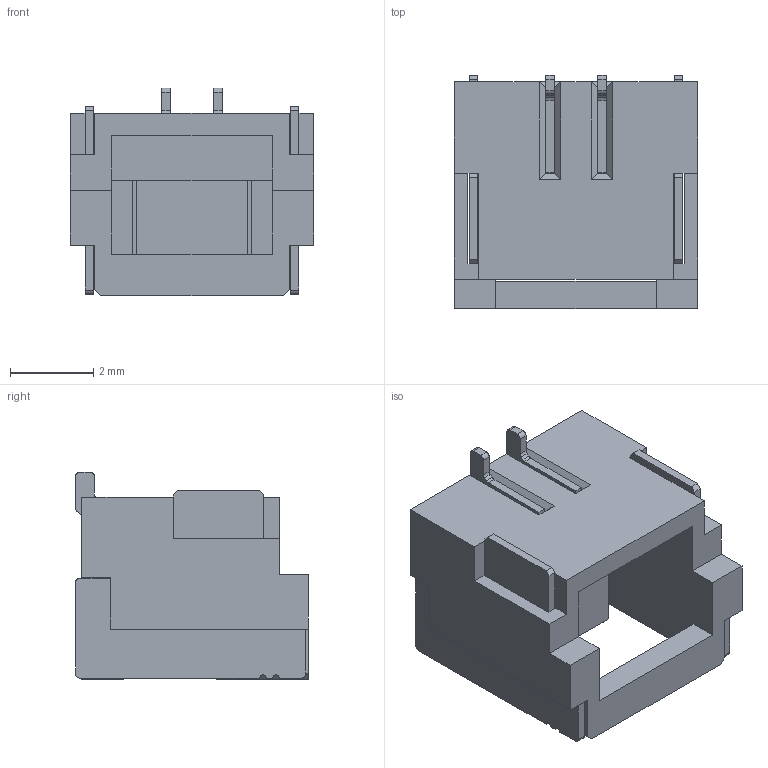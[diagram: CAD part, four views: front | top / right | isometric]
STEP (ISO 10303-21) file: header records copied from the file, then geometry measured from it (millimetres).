
FILE_DESCRIPTION(('CATIA V5 STEP Exchange'),'2;1');
FILE_NAME('\\Erp\共享文件夹\3D文件\小覃\条形连接器-小黄\1.25系列\德利\12504\NPWT\HC-12504-2PWT-05(1.25 单排 卧贴-HCTL).stp','2025-03-27T07:57:38+00:00',('none'),('none'),'CATIA Version 5 Release 20 GA (IN-10)','CATIA V5 STEP AP203','none');
FILE_SCHEMA(('CONFIG_CONTROL_DESIGN'));
Length unit declared in the file: millimetre
Products named in the file (1): Part2
Bounding box: 5.85 x 5.6 x 5 mm (x, y, z)
Volume: 73.9 mm3; surface area: 326.6 mm2
Topology: 1 solids, 1 shells, 223 faces, 682 edges, 436 vertices
Faces by surface type: plane 191, cylinder 32
Entity records: 6946 total; most frequent: ORIENTED_EDGE 1364, CARTESIAN_POINT 1248, DIRECTION 907, EDGE_CURVE 682, VECTOR 607, LINE 607, VERTEX_POINT 436, EDGE_LOOP 224
